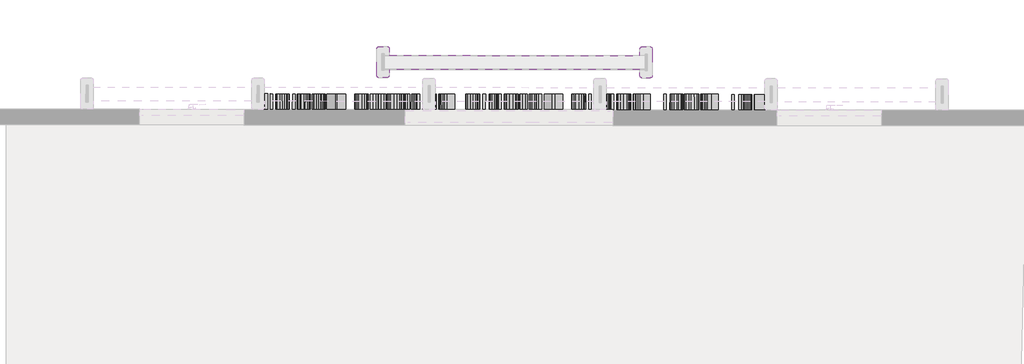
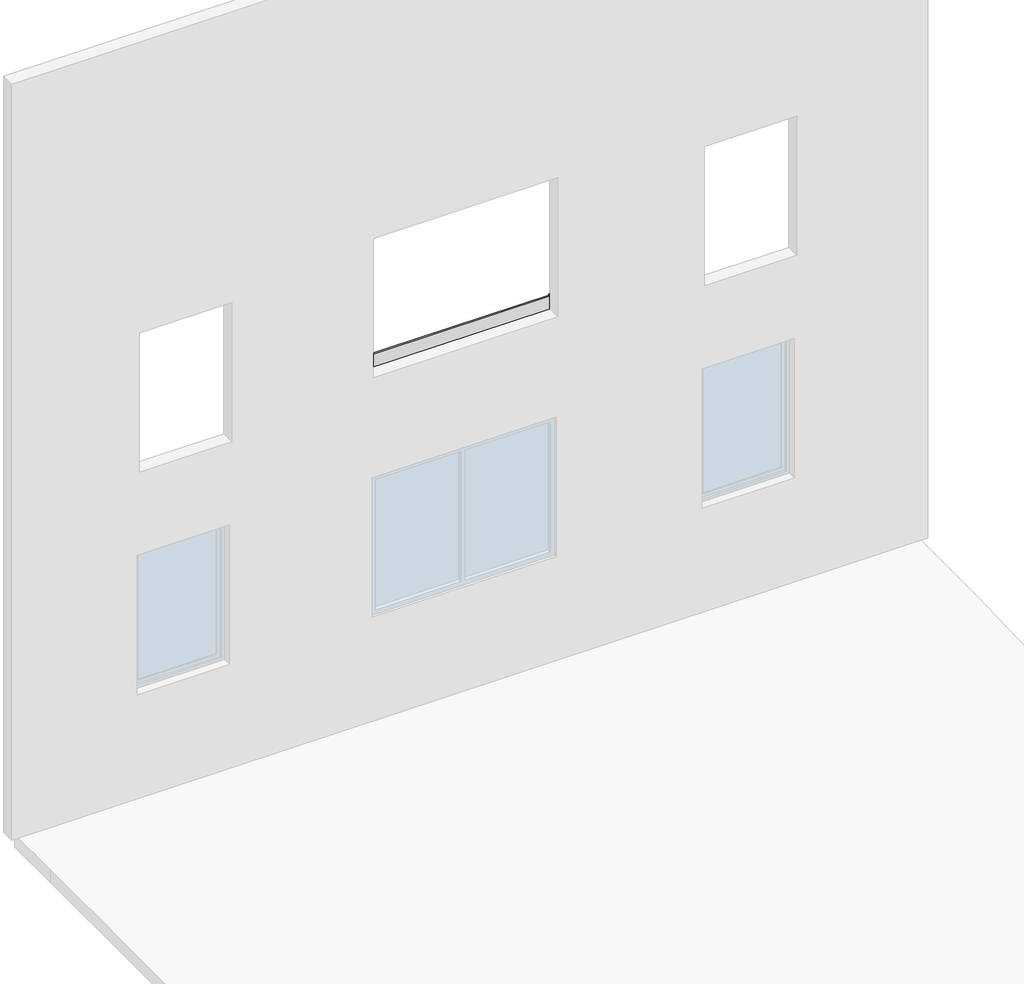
# One storey, part 2 of 2: 2 proxies.
"""IFC4 building model written with IfcOpenShell, lengths in millimetres."""

from ifc_helpers import new_model, si_unit, frame, origin, place, context, project, spatial, polyline, outline, extrude, transform, mapped, element, save
from components import brise_soleil_brise_soleil_2_45c54e24

model = new_model("IFC4")

# Units and contexts
model_context = context("Model", 3, world=origin())
ifc_project = project(units=[si_unit("LENGTHUNIT", "METRE", prefix="MILLI")], contexts=[model_context])

# Site, building, storey
site = spatial("IfcSite", under=ifc_project)
building = spatial("IfcBuilding", under=site)
storey = spatial("IfcBuildingStorey", under=building, Name="1º ANDAR", Elevation=3050.0)

# Proxies
placement = place(None, origin())
element("IfcBuildingElementProxy", 1, Name="20 cm Arial", ObjectType="20 cm Arial", at=placement, inside=storey, context=model_context, shape_type="SweptSolid", body=[
    extrude(outline(polyline([(147.5451126, 0.0), (147.5452017, -200.9126203), (3.1394341, -200.9126203), (3.1392558, -175.7985428), (122.4309769, -175.7985428), (122.4309769, -116.1526086), (9.4177675, -116.1526086), (9.4177675, -91.0385311), (122.4309769, -91.0385311), (122.4309769, -25.1140775), (0.0, -25.1140775), (0.0, 0.0), (147.5451126, 0.0)])), frame((4094.94361, 17830.8123145, 3137.5914756), z_axis=(0.001111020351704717, 0.9999993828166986, 0.0), x_axis=(0.9999993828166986, -0.001111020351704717, 0.0)), (0.0, 0.0, 1.0), 150.0),
    extrude(outline(polyline([(25.1140465, 0.0), (25.1140465, -23.6916005), (32.6280363, -11.9530992), (41.73005, -3.5684554), (52.4200877, 1.4623309), (64.6981492, 3.1392597), (80.934008, 0.7112385), (95.7964405, -6.572825), (108.3780048, -18.2040274), (117.7712584, -33.6734653), (123.6205821, -52.3557393), (125.5703567, -73.62545), (123.7738663, -94.6315119), (118.3843951, -113.6019601), (109.4080744, -129.4576741), (96.8510356, -141.1195334), (81.6636406, -148.2932323), (64.7962511, -150.6844652), (52.5089924, -148.9738139), (41.6442109, -143.8418601), (25.1140465, -126.060897), (25.1140465, -200.9126203), (0.0, -200.9126203), (0.0, 0.0), (25.1140465, 0.0)]), holes=[polyline([(100.4562792, -73.7235518), (97.6235878, -51.0068386), (89.1255137, -34.8506877), (76.7769414, -25.1937853), (62.3927554, -21.9748178), (48.0147007, -25.0466325), (35.9788281, -34.2620765), (27.830242, -49.792828), (25.1140465, -71.8105655), (27.8792929, -95.8823107), (36.1750318, -112.5718905), (48.5174728, -122.3207634), (63.4228249, -125.5703877), (77.9541638, -122.4495221), (89.8612777, -113.0869253), (97.8075288, -97.0043508), (100.4562792, -73.7235518)])]), frame((3944.2592378, 17830.9553135, 3137.5914756), z_axis=(0.001111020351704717, 0.9999993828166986, 0.0), x_axis=(0.9999993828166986, -0.001111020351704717, 0.0)), (0.0, 0.0, 1.0), 150.0),
    extrude(outline(polyline([(3875.3622203, 17981.0319521), (3900.4762513, 17981.0040499), (3900.3095982, 17831.0041425), (3875.1955672, 17831.0320447), (3875.3622203, 17981.0319521)])), frame((0.0, 0.0, 3137.5914756), z_axis=(0.0, 0.0, 1.0), x_axis=(1.0, 0.0, 0.0)), (0.0, 0.0, 1.0), 25.1140775),
    extrude(outline(polyline([(72.6443864, 0.0), (72.6444313, -200.9126203), (3.335549, -200.9126203), (-32.5207684, -198.0186153), (-48.535898, -192.4390717), (-62.0494299, -183.646692), (-75.9431066, -168.342801), (-85.8391322, -149.3110391), (-91.7620323, -126.9192883), (-93.7363324, -101.5354307), (-88.3897808, -60.9948348), (-74.6555196, -31.7359535), (-56.3104708, -13.513532), (-32.3000392, -3.4335653), (0.0, 0.0), (72.6443864, 0.0)]), holes=[polyline([(47.5303267, -25.1140775), (3.0902636, -25.1140775), (-29.2343559, -28.7438466), (-47.8737103, -38.9954915), (-56.5986449, -49.8664044), (-63.1530759, -63.9378908), (-67.2549601, -81.2712641), (-68.6222549, -101.9278381), (-65.9428477, -129.2982586), (-57.904626, -149.5072428), (-46.028169, -163.3886568), (-31.8340553, -171.7763663), (3.7769218, -175.7985428), (47.5302997, -175.7985428), (47.5303267, -25.1140775)])]), frame((3673.8416128, 17831.2836554, 3137.5914756), z_axis=(0.0011110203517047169, 0.9999993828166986, 0.0), x_axis=(0.9999993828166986, -0.0011110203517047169, 0.0)), (0.0, 0.0, 1.0), 150.0),
    extrude(outline(polyline([(12.1639699, 0.0), (23.8523746, -21.898773), (3.5867848, -25.3991639), (-15.9167434, -21.8784247), (-34.0336669, -11.2843615), (-50.1394422, 6.4352191), (-63.1355864, 33.3452722), (-64.0896777, 60.4695392), (-52.9686715, 86.0873119), (-29.7395236, 108.4778819), (-0.0294717, 123.5884798), (28.5340264, 125.9471445), (54.0184346, 116.6034722), (74.4912164, 96.607059), (86.1057193, 71.4005986), (86.2074116, 44.7465997), (74.4055457, 18.8487282), (50.3093741, -4.0893494), (44.7036158, -7.8863057), (-20.6075122, 84.1636988), (-33.4237605, 69.7403173), (-38.851477, 53.5072659), (-37.3486913, 36.7034596), (-29.3733524, 20.5676995), (-10.8441958, 3.5225627), (0.0, 0.0), (12.1639699, 0.0)]), holes=[polyline([(-0.1253413, 98.6963369), (50.7384315, 27.0085455), (59.5941031, 37.4565894), (63.481848, 48.3794587), (62.2100642, 65.429862), (53.9521974, 82.1545434), (42.2410152, 94.6021848), (28.3953462, 101.9418111), (13.808718, 103.5232519), (-0.1253413, 98.6963369)])]), frame((3452.4503647, 17831.5296258, 3171.6205602), z_axis=(0.0011110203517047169, 0.9999993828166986, 0.0), x_axis=(-0.578660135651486, 0.0006429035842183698, 0.81556853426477)), (0.0, 0.0, 1.0), 150.0),
    extrude(outline(polyline([(21.6072838, 0.0), (16.5724342, -24.8036717), (5.1280087, -25.1314475), (-4.801235, -29.8765477), (-13.0449857, -39.1480407), (-19.4329317, -53.054995), (-22.8217759, -67.7771504), (-21.9743526, -79.2153124), (-17.8557551, -87.199963), (-11.4310773, -91.5615841), (-4.6954377, -91.615826), (1.9366733, -87.210263), (16.9688997, -64.9946683), (40.6765707, -33.070625), (49.5810786, -25.9687379), (59.5391065, -22.0031647), (80.5304241, -23.1414787), (96.8266799, -33.3869735), (106.4513924, -49.6161959), (108.402096, -67.1185784), (104.4161177, -88.5748145), (89.9972409, -115.9651993), (80.8546645, -124.9471518), (71.1568639, -130.1194782), (47.0416479, -131.1127575), (52.0764975, -106.3090858), (60.5780955, -105.825502), (68.221288, -101.779603), (79.9879218, -82.4242273), (83.4601402, -68.3770542), (83.144446, -58.1270358), (79.9879357, -51.3589096), (74.9377057, -47.7574126), (67.0565003, -48.2621669), (58.8150741, -55.3737139), (46.8483982, -74.1701072), (23.8874473, -105.3362393), (5.7358881, -117.2898872), (-5.0810951, -118.5598391), (-16.9308176, -116.2088076), (-28.0884933, -110.5325828), (-37.3872047, -101.6392171), (-44.0275835, -90.0176738), (-47.2102613, -76.1569163), (-46.9160649, -60.8073604), (-43.1258209, -44.7194216), (-32.2365918, -21.6659519), (-17.9046383, -6.990731), (0.0, 0.0), (21.6072838, 0.0)])), frame((3397.4152522, 17831.5907709, 3161.0623469), z_axis=(0.0011110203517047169, 0.9999993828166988, 0.0), x_axis=(0.31895039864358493, -0.00035436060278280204, 0.9477713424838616)), (0.0, 0.0, 1.0), 150.0),
    extrude(outline(polyline([(3222.3966073, 17981.7574107), (3247.5106383, 17981.7295084), (3247.3439853, 17831.729601), (3222.2299542, 17831.7575032), (3222.3966073, 17981.7574107)])), frame((0.0, 0.0, 3137.5914756), z_axis=(0.0, 0.0, 1.0), x_axis=(1.0, 0.0, 0.0)), (0.0, 0.0, 1.0), 25.1140775),
    extrude(outline(polyline([(72.6443865, 0.0), (72.6444313, -200.9126203), (3.335549, -200.9126203), (-32.5207684, -198.0186153), (-48.5358979, -192.4390717), (-62.0494298, -183.646692), (-75.9431066, -168.342801), (-85.8391322, -149.3110391), (-91.7620323, -126.9192883), (-93.7363324, -101.5354307), (-88.3897807, -60.9948348), (-74.6555196, -31.7359535), (-56.3104708, -13.513532), (-32.3000391, -3.4335653), (0.0, 0.0), (72.6443865, 0.0)]), holes=[polyline([(47.5303268, -25.1140775), (3.0902636, -25.1140775), (-29.2343558, -28.7438466), (-47.8737102, -38.9954915), (-56.5986449, -49.8664044), (-63.1530758, -63.9378908), (-67.2549601, -81.2712641), (-68.6222549, -101.9278381), (-65.9428476, -129.2982586), (-57.904626, -149.5072428), (-46.0281689, -163.3886568), (-31.8340553, -171.7763663), (3.7769218, -175.7985428), (47.5302997, -175.7985428), (47.5303268, -25.1140775)])]), frame((3020.8759998, 17832.009114, 3137.5914756), z_axis=(0.0011110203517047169, 0.9999993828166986, 0.0), x_axis=(0.9999993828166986, -0.0011110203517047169, 0.0)), (0.0, 0.0, 1.0), 150.0),
    extrude(outline(polyline([(19.8544314, 0.0), (11.4085888, 28.4864542), (15.2166449, 55.576876), (24.6804847, 74.5452025), (38.0570311, 86.4054851), (53.9541478, 91.1693594), (70.9796986, 88.8484609), (88.3057676, 78.0060597), (97.9925293, 61.4632792), (100.24939, 42.1750155), (96.9609691, 20.3661792), (91.3768479, -23.6858105), (96.6351645, -25.5937041), (107.8149072, -27.4977286), (116.4120308, -24.8957264), (125.245711, -15.6122462), (132.0784459, -0.8532859), (135.6635091, 13.7214829), (135.5297407, 24.7790775), (131.4250849, 33.6573449), (123.0974854, 41.6941325), (134.0174511, 64.5267011), (153.848579, 46.4638014), (158.7501225, 35.0707687), (160.5649201, 21.1649152), (154.8799919, -11.8663191), (141.0206343, -39.3289966), (124.9509428, -52.0947454), (106.3451754, -54.0103594), (85.1102597, -48.2246253), (55.4682434, -38.3439044), (13.6731534, -25.7564495), (-7.9417941, -23.8252647), (0.0, 0.0), (19.8544314, 0.0)]), holes=[polyline([(67.5050196, -15.8836079), (73.01158, 24.9885722), (75.9820198, 46.7741421), (72.7944714, 58.1516611), (64.7131106, 64.4647586), (57.0369733, 65.0522593), (49.4577756, 61.6649976), (42.6657685, 54.2021494), (37.3512034, 42.5628904), (34.5106831, 29.2910668), (35.0167193, 16.5582549), (43.6331981, -3.5831379), (60.8041559, -13.4948628), (67.5050196, -15.8836079)])]), frame((2795.2908996, 17832.287646, 3137.5914756), z_axis=(0.0011110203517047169, 0.9999993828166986, 0.0), x_axis=(0.3162289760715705, -0.000351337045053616, 0.9486828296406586)), (0.0, 0.0, 1.0), 150.0),
    extrude(outline(polyline([(25.1140621, 0.0), (25.1140776, -147.5452055), (3.1e-05, -147.5452055), (3.1e-05, -126.9438138), (-8.7249346, -137.3303488), (-19.2034402, -144.7493024), (-31.4355165, -149.2006745), (-45.4211636, -150.6844652), (-69.1372896, -145.9019993), (-85.3240974, -133.3449605), (-92.8534155, -114.8772844), (-94.1777907, -90.5970727), (-94.1777907, 0.0), (-69.0637442, 0.0), (-69.0637442, -87.2125583), (-66.1697081, -109.4326308), (-55.9425887, -121.1803292), (-38.7011859, -125.5703877), (-23.9920374, -123.1055783), (-11.4533928, -115.7111502), (-2.8633482, -101.4250661), (0.0, -78.2852886), (0.0, 0.0), (25.1140621, 0.0)])), frame((2716.8094557, 17832.3469383, 3137.5914756), z_axis=(0.001111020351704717, 0.9999993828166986, 0.0), x_axis=(0.9999993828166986, -0.001111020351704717, 0.0)), (0.0, 0.0, 1.0), 150.0),
    extrude(outline(polyline([(2563.1524788, 17982.4898447), (2588.2665098, 17982.4619425), (2588.0998568, 17832.4620351), (2562.9858258, 17832.4899373), (2563.1524788, 17982.4898447)])), frame((0.0, 0.0, 3313.3900184), z_axis=(0.0, 0.0, 1.0), x_axis=(1.0, 0.0, 0.0)), (0.0, 0.0, 1.0), 25.1140775),
    extrude(outline(polyline([(2563.1524788, 17982.4898447), (2588.2665098, 17982.4619425), (2588.0998568, 17832.4620351), (2562.9858258, 17832.4899373), (2563.1524788, 17982.4898447)])), frame((0.0, 0.0, 3137.5914756), z_axis=(0.0, 0.0, 1.0), x_axis=(1.0, 0.0, 0.0)), (0.0, 0.0, 1.0), 147.5452055),
    extrude(outline(polyline([(2500.3673237, 17982.5596004), (2525.4813547, 17982.5316982), (2525.3147017, 17832.5317907), (2500.2006707, 17832.559693), (2500.3673237, 17982.5596004)])), frame((0.0, 0.0, 3137.5914756), z_axis=(0.0, 0.0, 1.0), x_axis=(1.0, 0.0, 0.0)), (0.0, 0.0, 1.0), 200.9126203),
    extrude(outline(polyline([(33.2269573, 0.0), (67.7203868, -10.2585138), (80.4819979, -18.8801106), (90.2535399, -29.8299343), (99.6276428, -51.4548012), (100.3671527, -75.8955336), (91.8242761, -101.3478882), (74.1582388, -120.1770957), (48.8024713, -130.6131984), (17.190404, -130.8862385), (-7.662498, -125.3912578), (-25.9566286, -116.6940544), (-38.9128389, -104.8051514), (-47.7519802, -89.7350721), (-52.2052701, -72.6723263), (-52.0039259, -54.8054234), (-43.4355561, -29.0347267), (-25.8275426, -10.2222472), (0.0, 0.0), (33.2269573, 0.0)]), holes=[polyline([(29.8322617, -24.8836359), (6.9194627, -24.6461859), (-10.3159549, -31.0625081), (-21.7170834, -42.730662), (-27.1270151, -58.2487067), (-26.1072071, -74.582432), (-18.2460169, -88.8919784), (-3.1888234, -99.7780119), (19.4189944, -105.8411986), (41.6783812, -105.9696386), (58.7027198, -99.4683919), (70.1030076, -87.8063115), (75.4902419, -72.4522503), (74.510889, -56.0498467), (66.7441634, -41.7286161), (51.9359819, -30.8770491), (29.8322617, -24.8836359)])]), frame((2464.2524905, 17832.6275344, 3178.4509025), z_axis=(0.001111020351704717, 0.9999993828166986, 0.0), x_axis=(0.13710561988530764, -0.00015232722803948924, 0.9905564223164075)), (0.0, 0.0, 1.0), 150.0),
    extrude(outline(polyline([(26.5365383, 0.0), (-53.6617203, -200.9126203), (-75.0479006, -200.9126203), (-155.2462019, 0.0), (-128.7096801, 0.0), (-105.7047599, -62.7851938), (-22.9559386, -62.7851938), (0.0, 0.0), (26.5365383, 0.0)]), holes=[polyline([(-32.1774118, -87.8992714), (-96.5321561, -87.8992714), (-78.4324413, -137.2935606), (-64.3548236, -175.7985428), (-51.8468358, -141.6100427), (-32.1774118, -87.8992714)])]), frame((2223.9459882, 17832.89452, 3137.5914756), z_axis=(0.001111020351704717, 0.9999993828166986, 0.0), x_axis=(0.9999993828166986, -0.001111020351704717, 0.0)), (0.0, 0.0, 1.0), 150.0),
    extrude(outline(polyline([(25.114062, 0.0), (25.1140775, -147.5452055), (3.1e-05, -147.5452055), (3.1e-05, -126.9438138), (-8.7249347, -137.3303488), (-19.2034402, -144.7493024), (-31.4355165, -149.2006745), (-45.4211636, -150.6844652), (-69.1372897, -145.9019993), (-85.3240975, -133.3449605), (-92.8534156, -114.8772844), (-94.1777907, -90.5970727), (-94.1777907, 0.0), (-69.0637442, 0.0), (-69.0637442, -87.2125583), (-66.1697082, -109.4326308), (-55.9425887, -121.1803292), (-38.7011859, -125.5703877), (-23.9920375, -123.1055783), (-11.4533928, -115.7111502), (-2.8633482, -101.4250661), (0.0, -78.2852886), (0.0, 0.0), (25.114062, 0.0)])), frame((2019.8942342, 17833.1212258, 3137.5914756), z_axis=(0.001111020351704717, 0.9999993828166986, 0.0), x_axis=(0.9999993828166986, -0.001111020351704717, 0.0)), (0.0, 0.0, 1.0), 150.0),
    extrude(outline(polyline([(10.986752, 1e-07), (16.1448535, -21.2906916), (-2.3335624, -25.4449409), (-23.6746219, -23.2668616), (-35.1508175, -13.3608276), (-40.8504826, 14.7271093), (-48.5350772, 96.3301858), (-67.2876462, 94.5642488), (-69.6422317, 119.5677049), (-50.8896628, 121.3336418), (-54.2513855, 157.0319356), (-30.6321682, 174.0858187), (-25.8862067, 123.6882274), (-0.8827814, 126.04281), (1.4718042, 101.039354), (-23.5316212, 98.6847713), (-15.9160085, 17.814218), (-13.3833837, 5.0459785), (-8.6803443, 0.8823126), (0.0, 0.0), (10.986752, 1e-07)])), frame((1848.7556357, 17833.3113643, 3159.5662934), z_axis=(0.001111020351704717, 0.9999993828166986, 0.0), x_axis=(-0.9955946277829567, 0.0011061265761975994, -0.09375560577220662)), (0.0, 0.0, 1.0), 150.0),
    extrude(outline(polyline([(33.2269573, 0.0), (67.7203868, -10.2585138), (80.4819979, -18.8801107), (90.2535399, -29.8299343), (99.6276428, -51.4548012), (100.3671527, -75.8955337), (91.8242761, -101.3478882), (74.1582388, -120.1770957), (48.8024713, -130.6131984), (17.190404, -130.8862385), (-7.662498, -125.3912579), (-25.9566286, -116.6940544), (-38.9128389, -104.8051514), (-47.7519802, -89.7350721), (-52.2052701, -72.6723263), (-52.0039259, -54.8054235), (-43.4355561, -29.0347268), (-25.8275426, -10.2222473), (0.0, 0.0), (33.2269573, 0.0)]), holes=[polyline([(29.8322617, -24.8836359), (6.9194627, -24.6461859), (-10.3159549, -31.0625081), (-21.7170834, -42.730662), (-27.1270152, -58.2487068), (-26.1072071, -74.582432), (-18.2460169, -88.8919784), (-3.1888234, -99.7780119), (19.4189944, -105.8411986), (41.6783812, -105.9696386), (58.7027198, -99.4683919), (70.1030076, -87.8063115), (75.4902419, -72.4522504), (74.510889, -56.0498467), (66.7441634, -41.7286161), (51.9359819, -30.8770491), (29.8322617, -24.8836359)])]), frame((1814.4261353, 17833.3495051, 3178.4509025), z_axis=(0.0011110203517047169, 0.9999993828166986, 0.0), x_axis=(0.13710561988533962, -0.00015232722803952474, 0.9905564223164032)), (0.0, 0.0, 1.0), 150.0),
    extrude(outline(polyline([(137.689244, -81.0118709), (114.7491801, -63.5753253), (118.1924592, -38.6984451), (151.8493411, -70.2950571), (148.4060621, -95.1719372), (107.0017927, -119.5483745), (110.4450718, -94.6714944), (137.689244, -81.0118709)])), frame((1814.4261353, 17833.3495051, 3178.4509025), z_axis=(0.0011110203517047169, 0.9999993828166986, 0.0), x_axis=(0.13710561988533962, -0.00015232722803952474, 0.9905564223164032)), (0.0, 0.0, 1.0), 150.0),
    extrude(outline(polyline([(25.114062, 0.0), (25.1140775, -147.5452055), (3.1e-05, -147.5452055), (3.1e-05, -126.9438138), (-8.7249347, -137.3303488), (-19.2034402, -144.7493024), (-31.4355165, -149.2006745), (-45.4211637, -150.6844652), (-69.1372897, -145.9019993), (-85.3240975, -133.3449605), (-92.8534156, -114.8772844), (-94.1777908, -90.5970727), (-94.1777908, 0.0), (-69.0637442, 0.0), (-69.0637442, -87.2125583), (-66.1697082, -109.4326308), (-55.9425887, -121.1803292), (-38.7011859, -125.5703877), (-23.9920375, -123.1055783), (-11.4533928, -115.7111502), (-2.8633483, -101.4250661), (0.0, -78.2852886), (0.0, 0.0), (25.114062, 0.0)])), frame((1633.7655304, 17833.5502229, 3137.5914756), z_axis=(0.001111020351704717, 0.9999993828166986, 0.0), x_axis=(0.9999993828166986, -0.001111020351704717, 0.0)), (0.0, 0.0, 1.0), 150.0),
    extrude(outline(polyline([(1480.1085534, 17983.6931293), (1505.2225845, 17983.6652271), (1505.0559314, 17833.6653197), (1479.9419004, 17833.6932219), (1480.1085534, 17983.6931293)])), frame((0.0, 0.0, 3313.3900184), z_axis=(0.0, 0.0, 1.0), x_axis=(1.0, 0.0, 0.0)), (0.0, 0.0, 1.0), 25.1140775),
    extrude(outline(polyline([(1480.1085534, 17983.6931293), (1505.2225845, 17983.6652271), (1505.0559314, 17833.6653197), (1479.9419004, 17833.6932219), (1480.1085534, 17983.6931293)])), frame((0.0, 0.0, 3137.5914756), z_axis=(0.0, 0.0, 1.0), x_axis=(1.0, 0.0, 0.0)), (0.0, 0.0, 1.0), 147.5452055),
    extrude(outline(polyline([(33.2269572, -1e-07), (67.7203868, -10.2585139), (80.4819979, -18.8801107), (90.2535399, -29.8299343), (99.6276428, -51.4548013), (100.3671527, -75.8955337), (91.8242761, -101.3478882), (74.1582388, -120.1770958), (48.8024713, -130.6131985), (17.190404, -130.8862386), (-7.662498, -125.3912579), (-25.9566286, -116.6940545), (-38.9128389, -104.8051514), (-47.7519802, -89.7350721), (-52.2052701, -72.6723264), (-52.0039259, -54.8054235), (-43.4355561, -29.0347268), (-25.8275426, -10.2222473), (0.0, 0.0), (33.2269572, -1e-07)]), holes=[polyline([(29.8322616, -24.883636), (6.9194627, -24.646186), (-10.3159549, -31.0625082), (-21.7170834, -42.7306621), (-27.1270152, -58.2487068), (-26.1072071, -74.5824321), (-18.2460169, -88.8919784), (-3.1888234, -99.7780119), (19.4189944, -105.8411986), (41.6783812, -105.9696387), (58.7027197, -99.468392), (70.1030076, -87.8063116), (75.4902419, -72.4522504), (74.5108889, -56.0498468), (66.7441634, -41.7286162), (51.9359819, -30.8770492), (29.8322616, -24.883636)])]), frame((1443.9937203, 17833.7610633, 3178.4509025), z_axis=(0.001111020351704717, 0.9999993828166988, 0.0), x_axis=(0.1371056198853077, -0.0001523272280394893, 0.9905564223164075)), (0.0, 0.0, 1.0), 150.0),
    extrude(outline(polyline([(76.0779497, 0.0), (76.0779966, -200.9126203), (-0.5885166, -200.9126203), (-21.6743809, -199.434961), (-38.1371001, -195.0019829), (-50.7554526, -187.5033216), (-60.3081217, -176.8286124), (-66.3229923, -164.2715736), (-68.3279493, -151.1259236), (-66.6418234, -139.0287373), (-61.583446, -127.6550523), (-53.1160288, -117.7038444), (-41.2027834, -109.8740892), (-55.4336853, -102.4428729), (-65.948979, -91.1366329), (-72.4420962, -76.703396), (-74.6064686, -59.8911888), (-68.6958313, -32.8886504), (-54.0541279, -13.6606848), (-32.2019374, -3.4580908), (0.0, 0.0), (76.0779497, 0.0)]), holes=[polyline([(50.9638929, -119.2918683), (5.1013535, -119.2918683), (-21.6805123, -121.4501093), (-37.7937436, -130.7452611), (-43.2138717, -147.1037471), (-38.1616257, -163.4867587), (-23.6916005, -173.1743179), (8.5839132, -175.7985428), (50.9638668, -175.7985428), (50.9638929, -119.2918683)]), polyline([(50.9638888, -25.1140775), (-0.5394967, -25.1140775), (-19.1789147, -26.0950962), (-34.9487896, -31.5642752), (-45.3966382, -42.7233624), (-49.4923911, -59.6459342), (-44.6853997, -79.1682054), (-38.3884862, -86.2254083), (-29.1117286, -90.8178019), (1.9129864, -94.1777908), (50.9638585, -94.1777908), (50.9638888, -25.1140775)])]), frame((1130.7485261, 17834.1090853, 3137.5914756), z_axis=(0.001111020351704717, 0.9999993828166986, 0.0), x_axis=(0.9999993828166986, -0.001111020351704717, 0.0)), (0.0, 0.0, 1.0), 150.0),
    extrude(outline(polyline([(19.8544314, 0.0), (11.4085888, 28.4864542), (15.2166449, 55.576876), (24.6804847, 74.5452025), (38.0570311, 86.4054851), (53.9541478, 91.1693594), (70.9796986, 88.8484609), (88.3057676, 78.0060597), (97.9925293, 61.4632793), (100.24939, 42.1750155), (96.9609691, 20.3661792), (91.3768479, -23.6858105), (96.6351645, -25.5937041), (107.8149072, -27.4977286), (116.4120308, -24.8957263), (125.245711, -15.6122462), (132.0784459, -0.8532859), (135.6635091, 13.7214829), (135.5297407, 24.7790775), (131.4250849, 33.657345), (123.0974854, 41.6941325), (134.0174511, 64.5267011), (153.848579, 46.4638014), (158.7501225, 35.0707687), (160.5649202, 21.1649153), (154.8799919, -11.8663191), (141.0206343, -39.3289966), (124.9509428, -52.0947454), (106.3451754, -54.0103594), (85.1102597, -48.2246253), (55.4682434, -38.3439044), (13.6731534, -25.7564495), (-7.9417941, -23.8252647), (0.0, 0.0), (19.8544314, 0.0)]), holes=[polyline([(67.5050196, -15.8836079), (73.01158, 24.9885722), (75.9820198, 46.7741421), (72.7944714, 58.1516611), (64.7131106, 64.4647586), (57.0369733, 65.0522593), (49.4577756, 61.6649976), (42.6657685, 54.2021494), (37.3512034, 42.5628904), (34.5106831, 29.2910668), (35.0167193, 16.5582549), (43.6331981, -3.5831379), (60.8041559, -13.4948628), (67.5050196, -15.8836079)])]), frame((924.2932778, 17834.3663637, 3137.5914756), z_axis=(0.001111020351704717, 0.9999993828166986, 0.0), x_axis=(0.31622897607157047, -0.0003513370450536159, 0.9486828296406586)), (0.0, 0.0, 1.0), 150.0),
    extrude(outline(polyline([(25.1140621, 0.0), (25.1140776, -147.5452055), (3.1392868, -147.5452055), (3.1392868, -125.7175405), (-12.4589369, -145.8284229), (-28.1552353, -150.6844652), (-40.6632232, -148.7469534), (-53.3674147, -142.9344179), (-44.9797053, -120.4200398), (-27.3213695, -125.5703877), (-13.1211245, -120.6162435), (-4.0712274, -106.8819823), (0.0, -77.5495246), (0.0, 0.0), (25.1140621, 0.0)])), frame((845.8118339, 17834.425656, 3137.5914756), z_axis=(0.001111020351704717, 0.9999993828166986, 0.0), x_axis=(0.9999993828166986, -0.001111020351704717, 0.0)), (0.0, 0.0, 1.0), 150.0),
    extrude(outline(polyline([(25.114062, 0.0), (25.1140775, -147.5452055), (3.1392868, -147.5452055), (3.1392868, -125.7175405), (-12.4589369, -145.8284229), (-28.1552354, -150.6844652), (-40.6632232, -148.7469534), (-53.3674147, -142.9344179), (-44.9797053, -120.4200398), (-27.3213695, -125.5703877), (-13.1211245, -120.6162435), (-4.0712274, -106.8819823), (0.0, -77.5495246), (0.0, 0.0), (25.114062, 0.0)])), frame((751.6341013, 17834.5302894, 3137.5914756), z_axis=(0.001111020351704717, 0.9999993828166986, 0.0), x_axis=(0.9999993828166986, -0.001111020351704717, 0.0)), (0.0, 0.0, 1.0), 150.0),
    extrude(outline(polyline([(12.1639699, 0.0), (23.8523746, -21.898773), (3.5867848, -25.3991639), (-15.9167434, -21.8784247), (-34.0336669, -11.2843615), (-50.1394421, 6.435219), (-63.1355864, 33.3452722), (-64.0896777, 60.4695392), (-52.9686715, 86.0873119), (-29.7395236, 108.4778819), (-0.0294717, 123.5884798), (28.5340264, 125.9471445), (54.0184346, 116.6034722), (74.4912164, 96.607059), (86.1057193, 71.4005986), (86.2074116, 44.7465996), (74.4055457, 18.8487282), (50.3093741, -4.0893494), (44.7036158, -7.8863057), (-20.6075122, 84.1636988), (-33.4237605, 69.7403173), (-38.851477, 53.5072659), (-37.3486913, 36.7034596), (-29.3733524, 20.5676995), (-10.8441958, 3.5225627), (0.0, 0.0), (12.1639699, 0.0)]), holes=[polyline([(-0.1253413, 98.6963369), (50.7384315, 27.0085455), (59.5941031, 37.4565894), (63.481848, 48.3794587), (62.2100642, 65.429862), (53.9521974, 82.1545434), (42.2410152, 94.6021848), (28.3953462, 101.9418111), (13.808718, 103.5232519), (-0.1253413, 98.6963369)])]), frame((586.3080347, 17834.7139702, 3171.6205602), z_axis=(0.0011110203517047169, 0.9999993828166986, 0.0), x_axis=(-0.5786601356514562, 0.0006429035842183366, 0.8155685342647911)), (0.0, 0.0, 1.0), 150.0),
    extrude(outline(polyline([(10.9867519, 1e-07), (16.1448535, -21.2906916), (-2.3335625, -25.4449409), (-23.674622, -23.2668616), (-35.1508176, -13.3608276), (-40.8504827, 14.7271093), (-48.5350773, 96.3301858), (-67.2876462, 94.5642488), (-69.6422317, 119.5677049), (-50.8896629, 121.3336418), (-54.2513856, 157.0319356), (-30.6321682, 174.0858187), (-25.8862067, 123.6882274), (-0.8827815, 126.04281), (1.4718041, 101.039354), (-23.5316212, 98.6847713), (-15.9160085, 17.814218), (-13.3833838, 5.0459785), (-8.6803444, 0.8823126), (0.0, 0.0), (10.9867519, 1e-07)])), frame((486.3177701, 17834.8250615, 3159.5662934), z_axis=(0.0011110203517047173, 0.9999993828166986, 0.0), x_axis=(-0.9955946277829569, 0.0011061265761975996, -0.09375560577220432)), (0.0, 0.0, 1.0), 150.0),
    extrude(outline(polyline([(10.986752, 1e-07), (16.1448535, -21.2906916), (-2.3335624, -25.4449409), (-23.6746219, -23.2668616), (-35.1508175, -13.3608276), (-40.8504826, 14.7271093), (-48.5350772, 96.3301858), (-67.2876462, 94.5642488), (-69.6422317, 119.5677049), (-50.8896628, 121.3336418), (-54.2513855, 157.0319356), (-30.6321682, 174.0858187), (-25.8862067, 123.6882274), (-0.8827814, 126.04281), (1.4718042, 101.039354), (-23.5316212, 98.6847713), (-15.9160085, 17.814218), (-13.3833837, 5.0459785), (-8.6803443, 0.8823126), (0.0, 0.0), (10.986752, 1e-07)])), frame((407.8363263, 17834.912256, 3159.5662934), z_axis=(0.0011110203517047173, 0.9999993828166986, 0.0), x_axis=(-0.9955946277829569, 0.0011061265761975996, -0.09375560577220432)), (0.0, 0.0, 1.0), 150.0),
    extrude(outline(polyline([(33.2269573, 0.0), (67.7203868, -10.2585138), (80.4819979, -18.8801106), (90.2535399, -29.8299343), (99.6276428, -51.4548012), (100.3671527, -75.8955337), (91.8242761, -101.3478882), (74.1582388, -120.1770957), (48.8024713, -130.6131984), (17.190404, -130.8862385), (-7.662498, -125.3912578), (-25.9566286, -116.6940544), (-38.9128389, -104.8051514), (-47.7519802, -89.7350721), (-52.2052701, -72.6723263), (-52.0039259, -54.8054235), (-43.4355561, -29.0347268), (-25.8275426, -10.2222473), (0.0, 0.0), (33.2269573, 0.0)]), holes=[polyline([(29.8322617, -24.8836359), (6.9194627, -24.6461859), (-10.3159549, -31.0625081), (-21.7170834, -42.730662), (-27.1270152, -58.2487068), (-26.1072071, -74.582432), (-18.2460169, -88.8919784), (-3.1888234, -99.7780119), (19.4189944, -105.8411986), (41.6783812, -105.9696386), (58.7027198, -99.4683919), (70.1030076, -87.8063115), (75.4902419, -72.4522504), (74.510889, -56.0498467), (66.7441634, -41.7286161), (51.9359819, -30.8770491), (29.8322617, -24.8836359)])]), frame((373.5068259, 17834.9503968, 3178.4509025), z_axis=(0.001111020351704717, 0.9999993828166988, 0.0), x_axis=(0.13710561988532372, -0.00015232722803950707, 0.9905564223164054)), (0.0, 0.0, 1.0), 150.0),
    extrude(outline(polyline([(26.5365383, 0.0), (-53.6617203, -200.9126203), (-75.0479006, -200.9126203), (-155.2462019, 0.0), (-128.7096801, 0.0), (-105.7047599, -62.7851938), (-22.9559386, -62.7851938), (0.0, 0.0), (26.5365383, 0.0)]), holes=[polyline([(-32.1774119, -87.8992714), (-96.5321561, -87.8992714), (-78.4324413, -137.2935606), (-64.3548236, -175.7985428), (-51.8468358, -141.6100427), (-32.1774119, -87.8992714)])]), frame((133.2003236, 17835.2173824, 3137.5914756), z_axis=(0.0011110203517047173, 0.9999993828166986, 0.0), x_axis=(0.9999993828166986, -0.0011110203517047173, 0.0)), (0.0, 0.0, 1.0), 150.0),
    extrude(outline(polyline([(14.5631264, 0.0), (18.9537837, -24.9257693), (-4.454261, -24.8073255), (-24.4586831, -17.1996701), (-39.9214912, -3.0483072), (-49.7046939, 16.7012583), (-52.8493709, 43.6851403), (-44.8455075, 68.0072866), (-25.848707, 87.9645899), (3.9854274, 101.8539429), (25.9093293, 106.5969161), (46.1149143, 106.7946818), (63.914348, 102.1392036), (78.6197962, 92.3224449), (89.84556, 78.6177955), (97.2059406, 62.2986453), (100.5211106, 41.115528), (96.724174, 22.1947221), (86.1251291, 6.1962471), (69.0339745, -6.2198775), (58.6428406, 16.8581678), (67.7736932, 24.4365241), (73.1924376, 33.5278191), (74.991117, 43.7498051), (73.2617748, 54.7202348), (65.5204013, 69.3181974), (52.8340811, 78.8906163), (35.0543205, 82.2113183), (12.0326252, 78.0541305), (-9.6567283, 68.5076214), (-22.5956462, 55.9201959), (-27.7156316, 41.108478), (-25.9481875, 24.8890922), (-20.2810271, 13.0269575), (-11.6231746, 4.5364563), (0.0, 0.0), (14.5631264, 0.0)])), frame((-135.6292784, 17835.5160577, 3177.0406882), z_axis=(0.0011110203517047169, 0.9999993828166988, 0.0), x_axis=(-0.2942927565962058, 0.0003269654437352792, 0.9557152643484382)), (0.0, 0.0, 1.0), 150.0),
    extrude(outline(polyline([(14.5631264, 0.0), (18.9537836, -24.9257692), (-4.454261, -24.8073255), (-24.4586831, -17.19967), (-39.9214912, -3.0483072), (-49.7046939, 16.7012583), (-52.8493709, 43.6851404), (-44.8455075, 68.0072866), (-25.848707, 87.9645899), (3.9854273, 101.853943), (25.9093293, 106.5969161), (46.1149143, 106.7946818), (63.914348, 102.1392036), (78.6197962, 92.322445), (89.84556, 78.6177956), (97.2059406, 62.2986454), (100.5211106, 41.115528), (96.724174, 22.1947221), (86.1251291, 6.1962472), (69.0339745, -6.2198775), (58.6428405, 16.8581678), (67.7736932, 24.4365241), (73.1924376, 33.5278191), (74.991117, 43.7498051), (73.2617748, 54.7202348), (65.5204012, 69.3181975), (52.8340811, 78.8906163), (35.0543205, 82.2113183), (12.0326252, 78.0541305), (-9.6567283, 68.5076215), (-22.5956462, 55.9201959), (-27.7156316, 41.1084781), (-25.9481875, 24.8890923), (-20.2810271, 13.0269576), (-11.6231746, 4.5364564), (0.0, 0.0), (14.5631264, 0.0)])), frame((-276.8958774, 17835.6730079, 3177.0406882), z_axis=(0.0011110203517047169, 0.9999993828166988, 0.0), x_axis=(-0.2942927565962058, 0.0003269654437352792, 0.9557152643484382)), (0.0, 0.0, 1.0), 150.0),
    extrude(outline(polyline([(-353.2179753, 17985.7299937), (-328.1039443, 17985.7020915), (-328.2705973, 17835.702184), (-353.3846283, 17835.7300863), (-353.2179753, 17985.7299937)])), frame((0.0, 0.0, 3137.5914756), z_axis=(0.0, 0.0, 1.0), x_axis=(1.0, 0.0, 0.0)), (0.0, 0.0, 1.0), 147.5452055),
    extrude(outline(polyline([(-353.2179753, 17985.7299937), (-328.1039443, 17985.7020915), (-328.2705973, 17835.702184), (-353.3846283, 17835.7300863), (-353.2179753, 17985.7299937)])), frame((0.0, 0.0, 3313.3900184), z_axis=(0.0, 0.0, 1.0), x_axis=(1.0, 0.0, 0.0)), (0.0, 0.0, 1.0), 25.1140775),
    extrude(outline(polyline([(33.2269573, 0.0), (67.7203868, -10.2585138), (80.4819979, -18.8801106), (90.2535399, -29.8299343), (99.6276428, -51.4548012), (100.3671527, -75.8955336), (91.8242761, -101.3478882), (74.1582388, -120.1770957), (48.8024713, -130.6131984), (17.190404, -130.8862385), (-7.662498, -125.3912578), (-25.9566286, -116.6940544), (-38.9128389, -104.8051514), (-47.7519802, -89.7350721), (-52.2052701, -72.6723263), (-52.0039259, -54.8054234), (-43.4355561, -29.0347267), (-25.8275426, -10.2222472), (0.0, 0.0), (33.2269573, 0.0)]), holes=[polyline([(29.8322617, -24.8836359), (6.9194627, -24.6461859), (-10.3159549, -31.0625081), (-21.7170834, -42.730662), (-27.1270151, -58.2487067), (-26.1072071, -74.582432), (-18.2460169, -88.8919784), (-3.1888234, -99.7780119), (19.4189944, -105.8411986), (41.6783812, -105.9696386), (58.7027198, -99.4683919), (70.1030076, -87.8063115), (75.4902419, -72.4522503), (74.510889, -56.0498467), (66.7441634, -41.7286161), (51.9359819, -30.8770491), (29.8322617, -24.8836359)])]), frame((-389.3328085, 17835.7979277, 3178.4509025), z_axis=(0.001111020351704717, 0.9999993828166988, 0.0), x_axis=(0.1371056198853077, -0.0001523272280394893, 0.9905564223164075)), (0.0, 0.0, 1.0), 150.0),
    extrude(outline(polyline([(-569.8267604, 17985.9706506), (-544.7127293, 17985.9427484), (-544.8793824, 17835.942841), (-569.9934134, 17835.9707432), (-569.8267604, 17985.9706506)])), frame((0.0, 0.0, 3137.5914756), z_axis=(0.0, 0.0, 1.0), x_axis=(1.0, 0.0, 0.0)), (0.0, 0.0, 1.0), 200.9126203),
    extrude(outline(polyline([(15.6706023, 1e-07), (23.5905783, -23.0630303), (10.6536759, -23.4553135), (-0.4688975, -28.5582966), (-6.0816953, -37.5913284), (-9.1051166, -57.0843509), (-9.8089234, -63.4364222), (71.9260149, -196.7711158), (45.9754743, -202.0772967), (1.8368989, -127.4925137), (-14.3864313, -97.365775), (-18.2483102, -127.6942594), (-29.5695584, -217.5242043), (-55.3278728, -222.7910801), (-35.2775483, -64.488601), (-28.770099, -29.7140352), (-18.0445685, -9.4471937), (0.0, 0.0), (15.6706023, 1e-07)])), frame((-623.0174389, 17836.0575562, 3077.9455415), z_axis=(0.001111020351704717, 0.9999993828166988, 0.0), x_axis=(0.9797282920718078, -0.0010884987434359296, 0.20032795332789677)), (0.0, 0.0, 1.0), 150.0),
])
brise_soleil_brise_soleil_2_shape = brise_soleil_brise_soleil_2_45c54e24(model_context)
element("IfcBuildingElementProxy", 2, Name="Brise soleil : Brise soleil 2", ObjectType="Brise soleil : Brise soleil 2", at=placement, inside=storey, context=model_context, shape_type="MappedRepresentation", body=[
    mapped(brise_soleil_brise_soleil_2_shape, transform((506.9569424, 17334.8021309, 5760.0), x_axis=(0.9999993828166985, -0.0011110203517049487, 0.0), y_axis=(0.0, 0.0, -1.0), z_axis=(0.0011110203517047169, 0.9999993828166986, 0.0))),
])

save(model, "model.ifc")
